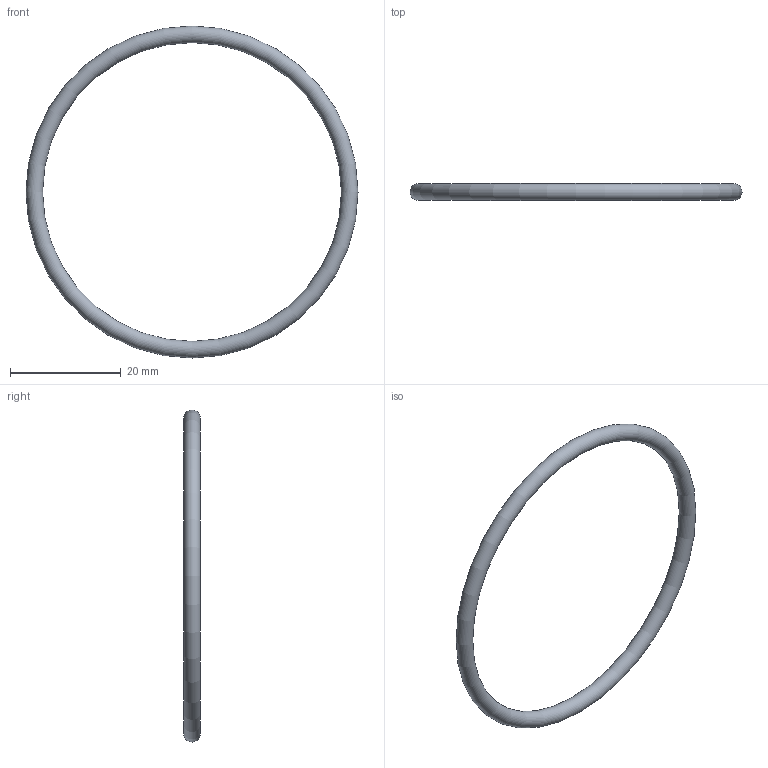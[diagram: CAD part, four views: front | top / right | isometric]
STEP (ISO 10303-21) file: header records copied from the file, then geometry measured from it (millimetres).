
FILE_DESCRIPTION( ( 'STEP AP203' ), '1' );
FILE_NAME( 'C:/Temp/Ganter_Step_05_03_2020/data/3_5/or638/O-Ring OR638-54.00-3.00-70.stp', '2020-03-12T13:44:31', ( 'License CC BY-ND 4.0' ), ( 'CADENAS' ), ' ', 'PARTsolutions', ' ' );
FILE_SCHEMA( ( 'CONFIG_CONTROL_DESIGN' ) );
Length unit declared in the file: millimetre
Products named in the file (1): _O-Ring OR638-54.00-3.00-70
Bounding box: 60 x 3 x 60 mm (x, y, z)
Volume: 1265.8 mm3; surface area: 1687.7 mm2
Topology: 1 solids, 1 shells, 1 faces, 2 edges, 1 vertices
Faces by surface type: torus 1
Entity records: 62 total; most frequent: CC_DESIGN_PERSON_AND_ORGANIZATION_ASSIGNMENT 5, PERSON_AND_ORGANIZATION_ROLE 4, DIRECTION 4, CARTESIAN_POINT 3, DATE_TIME_ROLE 2, CC_DESIGN_DATE_AND_TIME_ASSIGNMENT 2, AXIS2_PLACEMENT_3D 2, DIMENSIONAL_EXPONENTS 2
